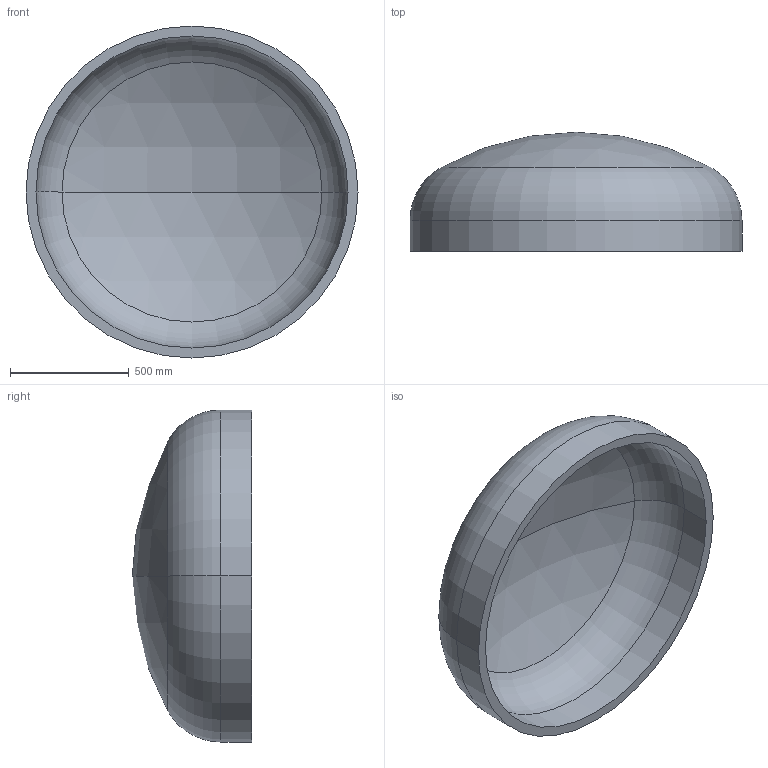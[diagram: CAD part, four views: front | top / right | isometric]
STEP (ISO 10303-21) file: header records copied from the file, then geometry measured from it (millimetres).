
FILE_DESCRIPTION (( 'STEP AP203' ), '1' );
FILE_NAME ('DIN 28013 Korbbogenform_-_Boden DIN 28013 - 1400 x 130 - I - s=42.step', '2016-07-01T10:18:03', ( '' ), ( '' ), 'SwSTEP 2.0', 'SolidWorks 2013', '' );
FILE_SCHEMA (( 'CONFIG_CONTROL_DESIGN' ));
Length unit declared in the file: millimetre
Products named in the file (1): DIN 28013 Korbbogenform_-_Boden DIN 28013 - 1400 x 130 - I - s=42
Bounding box: 1400 x 502.84 x 1400 mm (x, y, z)
Volume: 109349043.3 mm3; surface area: 5389974.3 mm2
Topology: 1 solids, 1 shells, 13 faces, 24 edges, 14 vertices
Faces by surface type: torus 4, cylinder 4, sphere 4, plane 1
Entity records: 407 total; most frequent: DIRECTION 72, CARTESIAN_POINT 52, ORIENTED_EDGE 48, AXIS2_PLACEMENT_3D 34, EDGE_CURVE 24, CIRCLE 20, EDGE_LOOP 14, VERTEX_POINT 14
